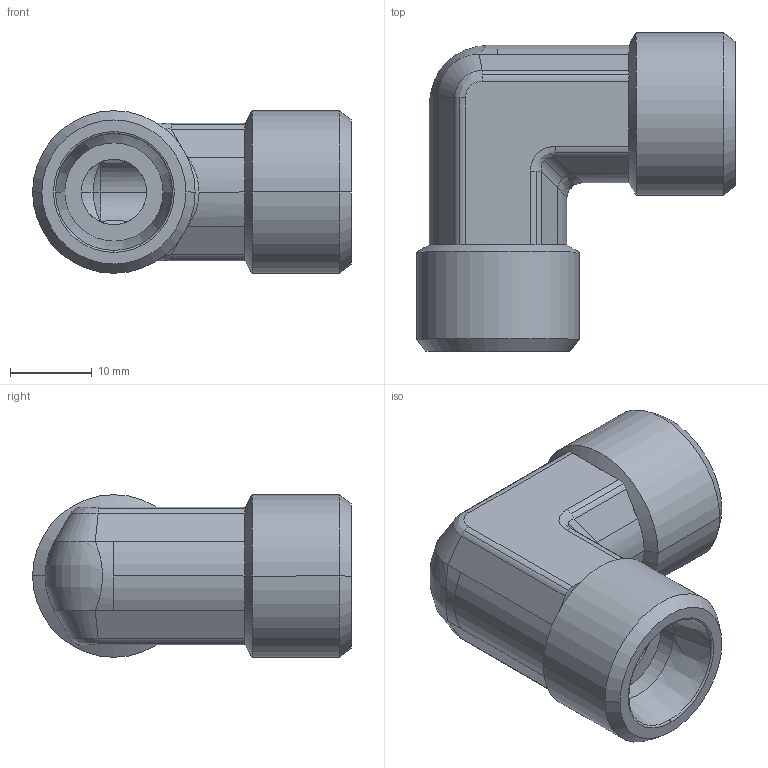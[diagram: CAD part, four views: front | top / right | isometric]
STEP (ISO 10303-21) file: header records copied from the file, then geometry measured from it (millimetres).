
FILE_DESCRIPTION((''),'2;1');
FILE_NAME('103817.stp','2007-10-31T11:52:17',(''),(''),'AutoCAD STEP 2000i','AutoCAD 2000i',', , ');
FILE_SCHEMA(('CONFIG_CONTROL_DESIGN'));
Length unit declared in the file: millimetre
Products named in the file (2): 103817.0; 3090#0
Assembly tree (1 placements, depth 2):
  103817.0
    3090#0
Bounding box: 38.92 x 38.92 x 19.85 mm (x, y, z)
Volume: 11212.6 mm3; surface area: 5484.5 mm2
Topology: 1 solids, 1 shells, 104 faces, 234 edges, 134 vertices
Faces by surface type: cylinder 44, plane 26, cone 20, bspline 14
Entity records: 3747 total; most frequent: CARTESIAN_POINT 1314, DIRECTION 526, ORIENTED_EDGE 468, EDGE_CURVE 234, AXIS2_PLACEMENT_3D 218, VERTEX_POINT 134, CIRCLE 108, EDGE_LOOP 108
